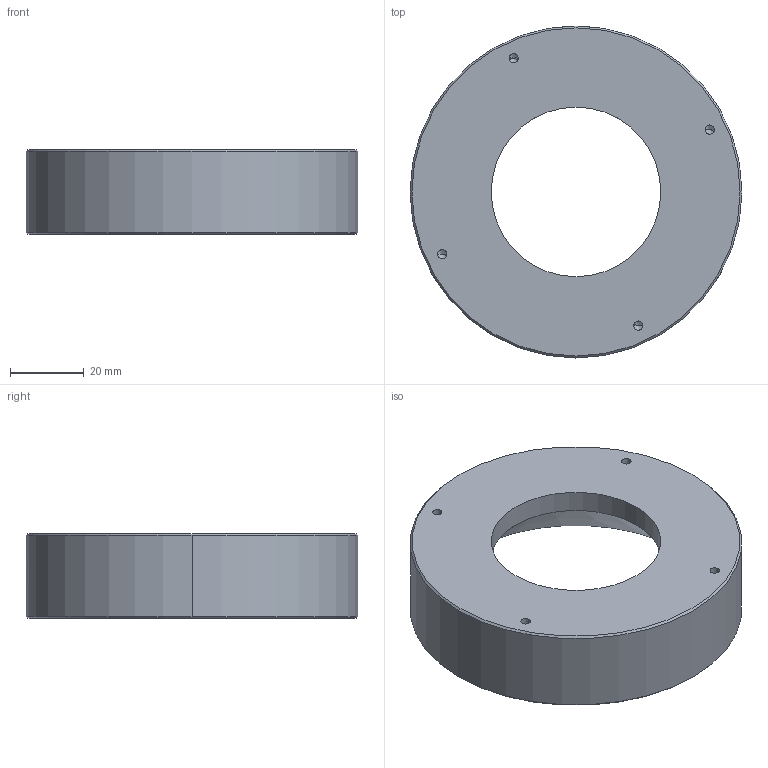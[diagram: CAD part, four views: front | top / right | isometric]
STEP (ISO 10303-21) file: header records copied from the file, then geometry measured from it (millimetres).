
FILE_DESCRIPTION (( 'STEP AP214' ), '1' );
FILE_NAME ('CST-RS9045-简易3D图.STEP', '2019-07-10T09:58:40', ( '微软用户' ), ( '微软中国' ), 'SwSTEP 2.0', 'SolidWorks 2014', '' );
FILE_SCHEMA (( 'AUTOMOTIVE_DESIGN' ));
Length unit declared in the file: millimetre
Products named in the file (1): CST-RS9045-潠眢3D芞
Bounding box: 90 x 90 x 23 mm (x, y, z)
Volume: 81818 mm3; surface area: 18259.5 mm2
Topology: 1 solids, 1 shells, 31 faces, 70 edges, 38 vertices
Faces by surface type: cylinder 14, cone 14, plane 3
Entity records: 894 total; most frequent: CARTESIAN_POINT 184, DIRECTION 156, ORIENTED_EDGE 124, AXIS2_PLACEMENT_3D 64, EDGE_CURVE 62, EDGE_LOOP 38, VERTEX_POINT 38, CIRCLE 32
